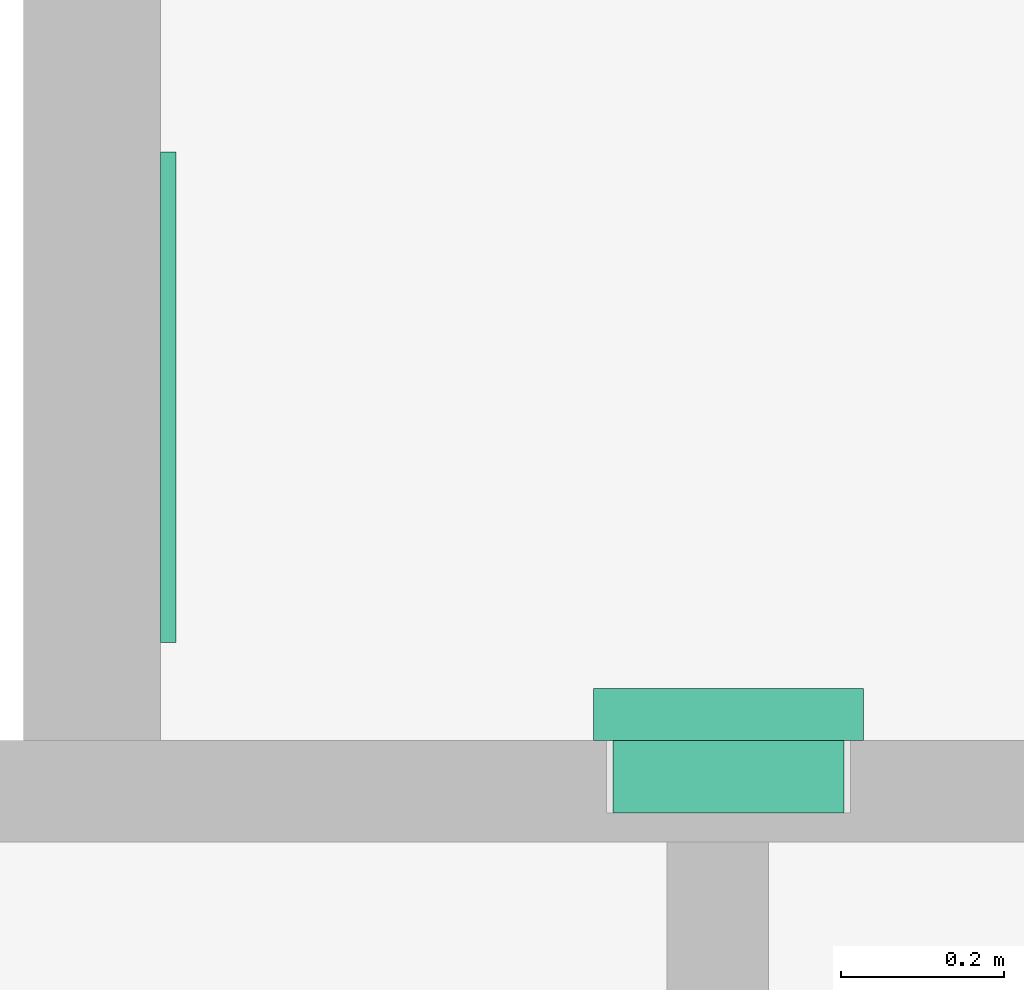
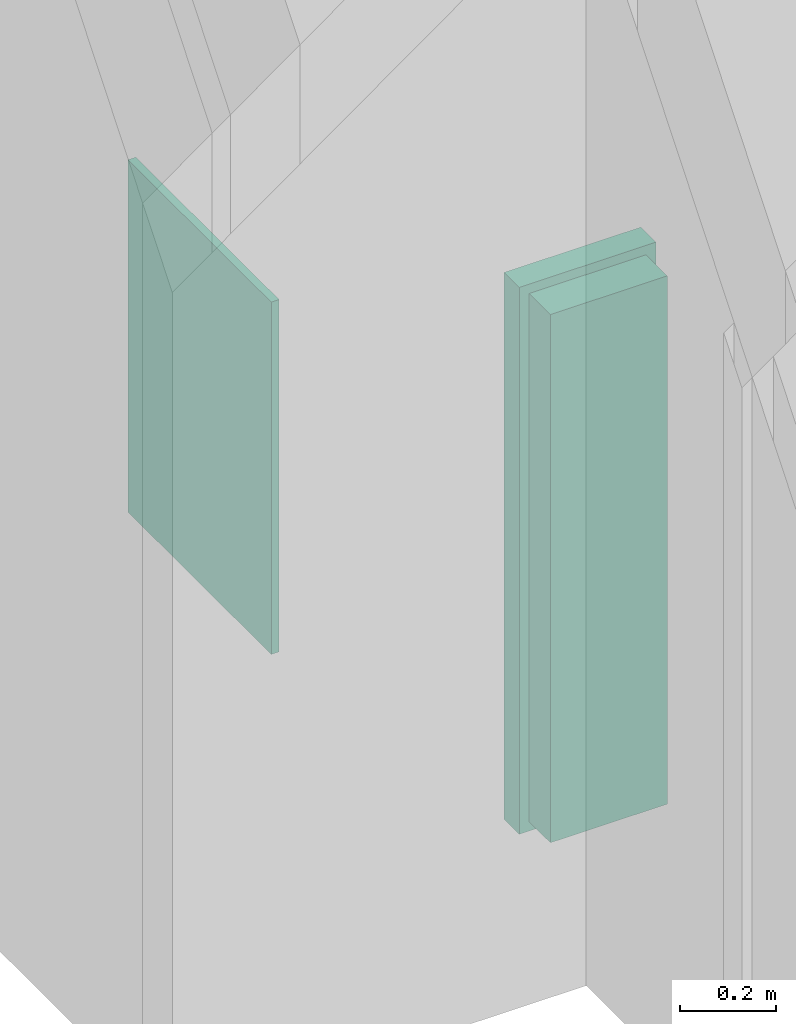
# One storey, part 56 of 82: 2 flow terminals.
"""IFC2X3 building model written with IfcOpenShell, lengths in metres."""

import ifcopenshell
import ifcopenshell.guid

model = None  # the IFC model being written
_history = None  # IfcOwnerHistory: only IFC2X3 demands one
_inside = {}  # id of a spatial element -> (the spatial element, [elements in it])
_under = {}  # id of a project, library or spatial element -> (it, [spatial elements below it])
_declared = {}  # id of a project -> (the project, [libraries it declares])
_typed = {}  # id of a type object -> (the type object, [elements of that type])
_made_of = {}  # id of a material, layer set ... -> (it, [elements and type objects made of it])


def new_model(schema):
    """Start an empty IFC model of exactly this schema.

    Asked for "IFC4X3", IfcOpenShell would pick the latest addendum, in which some entities
    have other attributes; the version numbers below select the first issue.
    IFC2X3 requires an IfcOwnerHistory on every rooted entity: one is made here for all.
    """
    global model, _history
    if schema == "IFC4X3":
        model = ifcopenshell.file(schema_version=(4, 3, 0, 0))
    else:
        model = ifcopenshell.file(schema=schema)
    _inside.clear()
    _under.clear()
    _declared.clear()
    _typed.clear()
    _made_of.clear()
    _history = None
    if model.schema == "IFC2X3":
        org = make("IfcOrganization", Name="unknown")
        user = make(
            "IfcPersonAndOrganization",
            ThePerson=make("IfcPerson", FamilyName="unknown"),
            TheOrganization=org,
        )
        app = make(
            "IfcApplication",
            ApplicationDeveloper=org,
            Version="unknown",
            ApplicationFullName="unknown",
            ApplicationIdentifier="unknown",
        )
        _history = make(
            "IfcOwnerHistory",
            OwningUser=user,
            OwningApplication=app,
            ChangeAction="ADDED",
            CreationDate=0,
        )
    return model


def make(cls, **values):
    """One entity of the class cls with the attributes given. An attribute that is None is left unset."""
    return model.create_entity(
        cls, **{name: value for name, value in values.items() if value is not None}
    )


def entity(cls, *values):
    """Any entity or typed value of the class cls, its attributes in the order of the schema. None: left unset."""
    e = model.create_entity(cls)
    for i, value in enumerate(values):
        if value is not None:
            e[i] = value
    return e


def rooted(cls, **values):
    """An entity with a GlobalId (a new one), such as an element, a storey or a relation."""
    return make(cls, GlobalId=ifcopenshell.guid.new(), OwnerHistory=_history, **values)


def si_unit(unit_type, name, prefix=None):
    """IfcSIUnit, for example si_unit("LENGTHUNIT", "METRE", prefix="MILLI")."""
    return make("IfcSIUnit", UnitType=unit_type, Prefix=prefix, Name=name)


def converted_unit(unit_type, name, factor, base, dimensions=None, offset=None):
    """IfcConversionBasedUnit, such as the inch: factor (a typed value) times the base unit."""
    return make(
        "IfcConversionBasedUnit"
        if offset is None
        else "IfcConversionBasedUnitWithOffset",
        ConversionOffset=offset,
        Dimensions=None
        if dimensions is None
        else entity("IfcDimensionalExponents", *dimensions),
        UnitType=unit_type,
        Name=name,
        ConversionFactor=make(
            "IfcMeasureWithUnit", ValueComponent=factor, UnitComponent=base
        ),
    )


def assignment(units):
    """IfcUnitAssignment: the units of a project."""
    return None if units is None else make("IfcUnitAssignment", Units=units)


def point(xyz):
    """IfcCartesianPoint."""
    return None if xyz is None else make("IfcCartesianPoint", Coordinates=xyz)


def direction(xyz):
    """IfcDirection."""
    return None if xyz is None else make("IfcDirection", DirectionRatios=xyz)


def frame(location, z_axis=None, x_axis=None):
    """IfcAxis2Placement3D, a coordinate frame: its origin and axes. An axis left out is left unset."""
    return make(
        "IfcAxis2Placement3D",
        Location=point(location),
        Axis=direction(z_axis),
        RefDirection=direction(x_axis),
    )


def frame_2d(location, x_axis=None):
    """IfcAxis2Placement2D, a coordinate frame in the plane: its origin and x axis."""
    return make(
        "IfcAxis2Placement2D", Location=point(location), RefDirection=direction(x_axis)
    )


def origin():
    """The frame at (0, 0, 0) with its axes left unset."""
    return frame((0.0, 0.0, 0.0))


def origin_2d_with_axis():
    """The frame at (0, 0) in the plane with the x axis (1, 0) written out."""
    return frame_2d((0.0, 0.0), x_axis=(1.0, 0.0))


def place(relative_to, where):
    """IfcLocalPlacement: puts the frame where relative to a parent placement (None: the world)."""
    return make(
        "IfcLocalPlacement", PlacementRelTo=relative_to, RelativePlacement=where
    )


def context(
    kind, dimensions, precision=None, world=None, true_north=None, identifier=None
):
    """IfcGeometricRepresentationContext, for example the 3D "Model" context."""
    return make(
        "IfcGeometricRepresentationContext",
        ContextIdentifier=identifier,
        ContextType=kind,
        CoordinateSpaceDimension=dimensions,
        Precision=precision,
        WorldCoordinateSystem=world,
        TrueNorth=true_north,
    )


def project(units=None, contexts=None):
    """IfcProject with its units and contexts."""
    return rooted(
        "IfcProject",
        Name="project",
        RepresentationContexts=contexts,
        UnitsInContext=assignment(units),
    )


def spatial(cls, under=None, at=None, **own):
    """A site, building, storey or space (cls), placed at a placement, below another one or the project."""
    s = rooted(cls, ObjectPlacement=at, **own)
    if under is not None:
        _under.setdefault(under.id(), (under, []))[1].append(s)
    return s


def profile(cls, at=None, kind="AREA", **sizes):
    """A parametric profile (cls). Its sizes go by their IFC names, for example OverallWidth=200.0."""
    return make(cls, ProfileType=kind, Position=at, **sizes)


def rectangle(**sizes):
    """IfcRectangleProfileDef."""
    return profile("IfcRectangleProfileDef", **sizes)


def extrude(swept, where, along, depth):
    """IfcExtrudedAreaSolid: the profile swept, set in the frame where, extruded along a direction by depth."""
    return make(
        "IfcExtrudedAreaSolid",
        SweptArea=swept,
        Position=where,
        ExtrudedDirection=direction(along),
        Depth=depth,
    )


def faces_of(points, faces, orient=None, outer=None):
    """IfcFace entities. A face is a list of loops; a loop is a list of indices into points, from 0.

    orient and outer hold one flag for each loop. By default every Orientation is true, the
    first loop of a face is its IfcFaceOuterBound and the others are IfcFaceBound.
    """
    made = []
    for i, loops in enumerate(faces):
        bounds = []
        for j, loop in enumerate(loops):
            is_outer = j == 0 if outer is None else outer[i][j]
            bounds.append(
                make(
                    "IfcFaceOuterBound" if is_outer else "IfcFaceBound",
                    Bound=make("IfcPolyLoop", Polygon=[points[k] for k in loop]),
                    Orientation=True if orient is None else orient[i][j],
                )
            )
        made.append(make("IfcFace", Bounds=bounds))
    return made


def face_set(faces, orient=None, outer=None):
    """The faces of one IfcConnectedFaceSet. surface_model builds it on its shared points."""
    return ("IfcConnectedFaceSet", faces, orient, outer)


def surface_model(cls, points, shells):
    """IfcFaceBasedSurfaceModel or IfcShellBasedSurfaceModel (cls): surfaces that need not close."""
    shared = [point(p) for p in points]
    made = [make(c, CfsFaces=faces_of(shared, fs, o, b)) for c, fs, o, b in shells]
    if cls == "IfcFaceBasedSurfaceModel":
        return make(cls, FbsmFaces=made)
    return make(cls, SbsmBoundary=made)


def shape(context_of_items, identifier, shape_type, items):
    """IfcShapeRepresentation: the items that make up one representation, for example the "Body"."""
    return make(
        "IfcShapeRepresentation",
        ContextOfItems=context_of_items,
        RepresentationIdentifier=identifier,
        RepresentationType=shape_type,
        Items=items,
    )


def source(mapping_origin, context_of_items, identifier, shape_type, items):
    """IfcRepresentationMap: a shape defined once, which mapped items show again and again."""
    return make(
        "IfcRepresentationMap",
        MappingOrigin=mapping_origin,
        MappedRepresentation=shape(context_of_items, identifier, shape_type, items),
    )


def transform(
    local_origin,
    x_axis=None,
    y_axis=None,
    z_axis=None,
    scale=None,
    scale2=None,
    scale3=None,
    uniform=True,
):
    """IfcCartesianTransformationOperator3D, or its non-uniform kind. x_axis, y_axis, z_axis: its Axis1, 2, 3."""
    if uniform:
        return make(
            "IfcCartesianTransformationOperator3D",
            Axis1=direction(x_axis),
            Axis2=direction(y_axis),
            LocalOrigin=point(local_origin),
            Scale=scale,
            Axis3=direction(z_axis),
        )
    return make(
        "IfcCartesianTransformationOperator3DnonUniform",
        Axis1=direction(x_axis),
        Axis2=direction(y_axis),
        LocalOrigin=point(local_origin),
        Scale=scale,
        Axis3=direction(z_axis),
        Scale2=scale2,
        Scale3=scale3,
    )


def mapped(mapping_source, mapping_target):
    """IfcMappedItem: shows the shape of a source again, moved by a transform."""
    return make(
        "IfcMappedItem", MappingSource=mapping_source, MappingTarget=mapping_target
    )


def made_of(thing, what):
    """Note that an element or type object is made of a material, layer set ...; save() writes the relation."""
    if what is not None:
        _made_of.setdefault(what.id(), (what, []))[1].append(thing)
    return thing


def type_object(cls, material=None, **own):
    """A type object (cls), such as IfcWallType, which elements share."""
    return made_of(rooted(cls, **own), material)


def type_shapes(of_type, sources):
    """Give a type object the sources (RepresentationMaps) that its elements show as mapped items."""
    of_type.RepresentationMaps = sources


def element(
    cls,
    number,
    at=None,
    inside=None,
    cuts=None,
    type_object=None,
    material=None,
    context=None,
    identifier="Body",
    shape_type=None,
    held_by="IfcProductDefinitionShape",
    body=None,
    shapes=None,
    **own,
):
    """One element of the class cls, such as IfcWall. Its Tag is "e" and its number.

    at: its placement. inside: the storey or other place that contains it. cuts: it is an
    opening in that element (IfcRelVoidsElement). A single representation is given by context,
    identifier, shape_type and body (its items); several are given by shapes. held_by: the class
    of the entity that holds the representations. save() writes the other relations.
    """
    e = rooted(cls, Tag="e%d" % number, ObjectPlacement=at, **own)
    if body is not None:
        shapes = [shape(context, identifier, shape_type, body)]
    if shapes is not None:
        e.Representation = make(held_by, Representations=shapes)
    if inside is not None:
        _inside.setdefault(inside.id(), (inside, []))[1].append(e)
    if cuts is not None:
        rooted(
            "IfcRelVoidsElement", RelatingBuildingElement=cuts, RelatedOpeningElement=e
        )
    if type_object is not None:
        _typed.setdefault(type_object.id(), (type_object, []))[1].append(e)
    return made_of(e, material)


def aggregate(whole, parts):
    """IfcRelAggregates: a whole, such as a stair, and the parts it consists of."""
    return rooted("IfcRelAggregates", RelatingObject=whole, RelatedObjects=parts)


def save(model, path):
    """Write the relations noted so far, then the file.

    IfcRelAggregates (storeys below a building ...), IfcRelContainedInSpatialStructure (elements
    in a storey), IfcRelDefinesByType, IfcRelAssociatesMaterial and IfcRelDeclares: one each for
    every whole, place, type object, material and project.
    """
    for whole, parts in _under.values():
        aggregate(whole, parts)
    for where, things in _inside.values():
        rooted(
            "IfcRelContainedInSpatialStructure",
            RelatedElements=things,
            RelatingStructure=where,
        )
    for kind, things in _typed.values():
        rooted("IfcRelDefinesByType", RelatedObjects=things, RelatingType=kind)
    for what, things in _made_of.values():
        rooted("IfcRelAssociatesMaterial", RelatedObjects=things, RelatingMaterial=what)
    for by, libraries in _declared.values():
        rooted("IfcRelDeclares", RelatingContext=by, RelatedDefinitions=libraries)
    model.write(path)


model = new_model("IFC2X3")

# Units and contexts
model_context = context("Model", 3, precision=1e-09, world=origin())
plan_context = context("Plan", 3, precision=1e-09, world=origin())
ifc_project = project(units=[si_unit("LENGTHUNIT", "METRE"), si_unit("AREAUNIT", "SQUARE_METRE"), si_unit("VOLUMEUNIT", "CUBIC_METRE"), converted_unit("PLANEANGLEUNIT", "DEGREE", entity("IfcRatioMeasure", 0.01745329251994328), si_unit("PLANEANGLEUNIT", "RADIAN"), dimensions=[0, 0, 0, 0, 0, 0, 0]), si_unit("TIMEUNIT", "SECOND")], contexts=[model_context, plan_context])

# Site, building, storey, space
site_placement = place(None, origin())
site = spatial("IfcSite", under=ifc_project, at=site_placement, Name="Default", CompositionType="ELEMENT")
building_placement = place(site_placement, origin())
building = spatial("IfcBuilding", under=site, at=building_placement, CompositionType="ELEMENT")
storey_placement = place(building_placement, origin())
storey = spatial("IfcBuildingStorey", under=building, at=storey_placement, Name="First Floor", CompositionType="ELEMENT", Elevation=-3.531500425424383e-13)
space_placement = place(storey_placement, origin())
space = spatial("IfcSpace", under=storey, at=space_placement, Name="1B11", CompositionType="ELEMENT", InteriorOrExteriorSpace="INTERNAL")

# Flow terminals
sanitary_terminal_type_1 = type_object("IfcSanitaryTerminalType", Name="Semi-Recessed", PredefinedType="NOTDEFINED")
shared_shape_1 = source(origin(), model_context, "Body", "SurfaceModel", [
    surface_model("IfcFaceBasedSurfaceModel", [(0.3047999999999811, 1.371600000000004, 0.006350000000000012), (0.02539999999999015, 1.371600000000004, 0.006350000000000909), (0.02539999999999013, 0.02540000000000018, 0.006350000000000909), (0.3047999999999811, 0.02540000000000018, 0.006350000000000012), (0.3047999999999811, 1.371600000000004, 0.0), (0.02539999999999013, 1.371600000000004, 0.0), (0.02539999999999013, 0.02540000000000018, 0.0), (0.3047999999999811, 0.02540000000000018, 0.0), (0.3047999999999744, 0.8683625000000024, 0.0314087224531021), (0.304799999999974, 0.8683625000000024, 0.0), (0.304799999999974, 1.371600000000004, 0.0), (0.3047999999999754, 1.371600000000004, 0.1396999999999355), (0.3047999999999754, 0.9274310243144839, 0.139699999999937), (0.3047999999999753, 0.9028355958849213, 0.1191121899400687), (0.304799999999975, 0.8840898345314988, 0.09308548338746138), (0.3047999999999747, 0.8723562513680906, 0.06323391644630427), (0.02539999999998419, 0.8683625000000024, 0.03140872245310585), (0.02539999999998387, 0.8683625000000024, 0.0), (0.02539999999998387, 1.371600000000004, 0.0), (0.02539999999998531, 1.371600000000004, 0.1396999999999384), (0.02539999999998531, 0.9274310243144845, 0.1396999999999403), (0.02539999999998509, 0.9028355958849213, 0.1191121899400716), (0.02539999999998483, 0.8840898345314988, 0.09308548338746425), (0.02539999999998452, 0.8723562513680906, 0.06323391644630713), (0.1650999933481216, 0.8971245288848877, 0.1125374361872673), (0.244423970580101, 0.8850007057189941, 0.0947267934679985), (0.3048000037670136, 0.8934627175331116, 0.1060988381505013), (0.225727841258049, 0.8897196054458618, 0.1024402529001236), (0.1240624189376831, 0.8936511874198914, 0.1080563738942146), (0.1443802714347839, 0.89626145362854, 0.1114614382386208), (0.02539999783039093, 0.8934627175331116, 0.1060988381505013), (0.2975995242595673, 0.8728225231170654, 0.06500939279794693), (0.2961554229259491, 0.8724397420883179, 0.06352298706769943), (0.08576729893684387, 0.8849983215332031, 0.09472260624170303), (0.05923719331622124, 0.8781034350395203, 0.0805450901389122), (0.06810294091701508, 0.8800443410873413, 0.08500713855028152), (0.02539999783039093, 0.8811564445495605, 0.08562259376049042), (0.03954862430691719, 0.8766331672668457, 0.07681932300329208), (0.04958875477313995, 0.8769928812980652, 0.07776296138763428), (0.02539999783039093, 0.8782230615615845, 0.07815969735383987), (0.03264534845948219, 0.875198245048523, 0.07281118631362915), (0.02539999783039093, 0.8767563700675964, 0.0744282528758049), (0.02539999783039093, 0.87602299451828, 0.07256253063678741), (0.2946777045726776, 0.8762261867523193, 0.07572414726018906), (0.3048000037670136, 0.8767563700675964, 0.0744282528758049), (0.3048000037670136, 0.8774896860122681, 0.07629397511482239), (0.2906513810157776, 0.8717893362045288, 0.0609215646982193), (0.3048000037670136, 0.871357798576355, 0.05527761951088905), (0.3048000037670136, 0.8718570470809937, 0.05925576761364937), (0.02539999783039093, 0.874556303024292, 0.06883108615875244), (0.03170676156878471, 0.8735430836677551, 0.0675705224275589), (0.03171554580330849, 0.8739543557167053, 0.06892137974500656), (0.104461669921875, 0.889717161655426, 0.1024366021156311), (0.02539999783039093, 0.8752896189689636, 0.07069680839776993), (0.03172433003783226, 0.8743656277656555, 0.07027223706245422), (0.03218483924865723, 0.8747819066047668, 0.07154171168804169), (0.185808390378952, 0.8962624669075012, 0.1114626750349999), (0.3048000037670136, 0.8703593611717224, 0.04732131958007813), (0.2280749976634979, 0.8709259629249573, 0.05697767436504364), (0.2061262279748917, 0.8936530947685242, 0.1080589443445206), (0.3048000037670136, 0.8752896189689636, 0.07069680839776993), (0.297547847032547, 0.8752022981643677, 0.07282306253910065), (0.2980738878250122, 0.8745774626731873, 0.0708826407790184), (0.2985999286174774, 0.8739525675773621, 0.06894221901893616), (0.3048000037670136, 0.874556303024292, 0.06883108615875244), (0.2709419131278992, 0.8781068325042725, 0.08055329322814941), (0.3048000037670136, 0.8811564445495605, 0.08562259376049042), (0.2620970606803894, 0.8800443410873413, 0.08500713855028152), (0.2805894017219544, 0.8769944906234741, 0.07776710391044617), (0.3048000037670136, 0.8782230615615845, 0.07815969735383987), (0.03435983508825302, 0.8722586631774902, 0.06284872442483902), (0.02539999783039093, 0.872106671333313, 0.06124484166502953), (0.0367727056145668, 0.8719081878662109, 0.06142202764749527), (0.2906513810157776, 0.8766331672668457, 0.07681932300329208), (0.02539999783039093, 0.8718570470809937, 0.05925576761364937), (0.3048000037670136, 0.8738229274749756, 0.06696536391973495), (0.2980997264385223, 0.8733875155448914, 0.06697580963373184), (0.3048000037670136, 0.872106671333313, 0.06124484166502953), (0.2947112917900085, 0.8720570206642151, 0.06203658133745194), (0.02539999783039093, 0.8738229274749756, 0.06696536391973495), (0.3048000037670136, 0.873089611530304, 0.06509964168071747), (0.02539999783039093, 0.8774896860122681, 0.07629397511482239), (0.03438528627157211, 0.8759323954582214, 0.07491400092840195), (0.03677724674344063, 0.8764464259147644, 0.07632055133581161), (0.03261014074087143, 0.8728178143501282, 0.0649920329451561), (0.02539999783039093, 0.8703593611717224, 0.04732131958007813), (0.1650999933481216, 0.8683624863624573, 0.03140872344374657), (0.03954862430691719, 0.8717893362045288, 0.0609215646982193), (0.1021250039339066, 0.8709259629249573, 0.05697767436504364), (0.02539999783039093, 0.871357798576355, 0.05527761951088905), (0.02539999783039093, 0.873089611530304, 0.06509964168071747), (0.2961127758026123, 0.8757142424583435, 0.07427360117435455), (0.3048000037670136, 0.87602299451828, 0.07256253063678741), (0.1650999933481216, 0.8701865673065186, 0.05300865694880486), (0.03954862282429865, 0.9617593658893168, 0.06092156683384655), (0.1650999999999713, 0.9617593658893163, 0.05300865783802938), (0.2906513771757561, 0.9617593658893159, 0.06092156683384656), (0.2927086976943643, 0.9617593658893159, 0.06119241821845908), (0.2946258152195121, 0.9617593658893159, 0.06198651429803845), (0.2962720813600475, 0.9617593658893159, 0.06324973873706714), (0.2975353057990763, 0.9617593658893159, 0.06489600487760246), (0.2983294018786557, 0.9617593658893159, 0.06681312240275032), (0.2986002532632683, 0.9617593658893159, 0.06887044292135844), (0.2983294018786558, 0.9617593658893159, 0.07092776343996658), (0.2975353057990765, 0.9617593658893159, 0.0728448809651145), (0.2962720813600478, 0.9617593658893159, 0.07449114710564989), (0.2946258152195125, 0.9617593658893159, 0.07575437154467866), (0.2927086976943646, 0.9617593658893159, 0.07654846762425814), (0.2906513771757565, 0.9617593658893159, 0.07681931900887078), (0.2806776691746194, 0.9617593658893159, 0.07775040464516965), (0.2710486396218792, 0.9617593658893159, 0.0805114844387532), (0.2620970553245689, 0.9617593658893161, 0.0850071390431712), (0.2316919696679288, 0.9617593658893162, 0.1002429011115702), (0.1989754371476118, 0.9617593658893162, 0.1095287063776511), (0.1651000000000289, 0.9617593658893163, 0.1125374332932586), (0.1312245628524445, 0.9617593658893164, 0.109528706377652), (0.09850803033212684, 0.9617593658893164, 0.1002429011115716), (0.06810294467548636, 0.9617593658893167, 0.08500713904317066), (0.05915136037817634, 0.9617593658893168, 0.08051148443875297), (0.04952233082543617, 0.9617593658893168, 0.07775040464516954), (0.03954862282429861, 0.9617593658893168, 0.07681931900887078), (0.03749130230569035, 0.9617593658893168, 0.0765484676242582), (0.03557418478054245, 0.9617593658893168, 0.07575437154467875), (0.03392791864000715, 0.9617593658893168, 0.07449114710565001), (0.03266469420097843, 0.9617593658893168, 0.07284488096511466), (0.03187059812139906, 0.9617593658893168, 0.07092776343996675), (0.03159974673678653, 0.9617593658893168, 0.06887044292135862), (0.03187059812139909, 0.9617593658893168, 0.06681312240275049), (0.03266469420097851, 0.9617593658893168, 0.0648960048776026), (0.03392791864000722, 0.9617593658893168, 0.06324973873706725), (0.03557418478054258, 0.9617593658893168, 0.06198651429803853), (0.03749130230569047, 0.9617593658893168, 0.06119241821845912), (0.3302000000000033, 1.397000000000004, 0.1523999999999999), (0.0, 1.397000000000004, 0.152400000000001), (0.0, 0.0, 0.152400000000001), (0.3302000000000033, 0.0, 0.1523999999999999), (0.03175000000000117, 0.7016793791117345, 0.1524000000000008), (0.03175000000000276, 0.8960819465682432, 0.1524000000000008), (0.03192255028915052, 0.8975521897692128, 0.1524000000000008), (0.03243082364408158, 0.8989425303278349, 0.1524000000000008), (0.03324719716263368, 0.9001774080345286, 0.1524000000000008), (0.03432730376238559, 0.9011897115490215, 0.1524000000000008), (0.03561244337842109, 0.9019244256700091, 0.1524000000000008), (0.03703277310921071, 0.9023416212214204, 0.1524000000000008), (0.1222300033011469, 0.9119737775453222, 0.1524000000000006), (0.2079699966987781, 0.911973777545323, 0.1524000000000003), (0.2931672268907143, 0.902341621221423, 0.1524), (0.2945875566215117, 0.9019244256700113, 0.1524), (0.2958726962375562, 0.9011897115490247, 0.1524), (0.2969528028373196, 0.9001774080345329, 0.1524), (0.297769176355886, 0.8989425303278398, 0.1524), (0.2982774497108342, 0.8975521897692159, 0.1524), (0.2984500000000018, 0.8960819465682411, 0.1524), (0.2984500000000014, 0.7016793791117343, 0.1524), (0.2982774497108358, 0.7002091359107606, 0.1524), (0.2977691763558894, 0.6988187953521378, 0.1524), (0.2969528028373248, 0.697583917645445, 0.1524), (0.2958726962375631, 0.6965716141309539, 0.1524), (0.29458755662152, 0.6958369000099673, 0.1524), (0.2931672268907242, 0.6954197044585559, 0.1524), (0.2079699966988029, 0.6857875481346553, 0.1524000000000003), (0.1222300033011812, 0.6857875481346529, 0.1524000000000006), (0.03703277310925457, 0.6954197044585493, 0.1524000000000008), (0.03561244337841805, 0.6958369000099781, 0.1524000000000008), (0.0343273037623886, 0.6965716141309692, 0.1524000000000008), (0.03324719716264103, 0.6975839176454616, 0.1524000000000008), (0.03243082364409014, 0.698818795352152, 0.1524000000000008), (0.03192255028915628, 0.7002091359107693, 0.1524000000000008), (0.3063874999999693, 1.373187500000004, 0.0), (0.02381249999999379, 1.373187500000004, 0.0), (0.02381249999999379, 0.02381250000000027, 0.0), (0.3063874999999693, 0.02381250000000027, 0.0), (0.3047999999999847, 1.371600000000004, 0.0), (0.3047999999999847, 0.02540000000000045, 0.0), (0.02539999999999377, 0.02540000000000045, 0.0), (0.02539999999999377, 1.371600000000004, 0.0), (0.304799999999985, 1.371600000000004, 0.08889999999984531), (0.3047999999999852, 1.371600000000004, 0.1396999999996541), (0.3047999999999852, 0.02540000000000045, 0.1396999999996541), (0.304799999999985, 0.02540000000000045, 0.08889999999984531), (0.02539999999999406, 0.02540000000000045, 0.08889999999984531), (0.02539999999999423, 0.02540000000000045, 0.139699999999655), (0.02539999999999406, 1.371600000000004, 0.08889999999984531), (0.02539999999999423, 1.371600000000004, 0.139699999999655), (0.02381249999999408, 1.373187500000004, 0.08889999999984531), (0.3063874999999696, 1.373187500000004, 0.08889999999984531), (0.02381249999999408, 0.02381250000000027, 0.08889999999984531), (0.3063874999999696, 0.02381250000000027, 0.08889999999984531), (0.3302000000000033, 1.397000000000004, 0.08889999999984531), (0.0, 1.397000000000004, 0.08889999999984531), (0.0, 0.0, 0.08889999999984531), (0.3302000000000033, 0.0, 0.08889999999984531), (0.3302000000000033, 1.397000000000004, 0.1396999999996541), (0.0, 1.397000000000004, 0.1396999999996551), (0.0, 0.0, 0.1396999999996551), (0.3302000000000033, 0.0, 0.1396999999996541), (0.0317500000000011, 0.7016793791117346, 0.139699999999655), (0.03175000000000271, 0.8960819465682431, 0.139699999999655), (0.03192255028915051, 0.8975521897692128, 0.139699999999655), (0.03243082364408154, 0.8989425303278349, 0.139699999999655), (0.03324719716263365, 0.9001774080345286, 0.139699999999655), (0.03432730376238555, 0.9011897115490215, 0.139699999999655), (0.03561244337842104, 0.9019244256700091, 0.139699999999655), (0.03703277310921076, 0.9023416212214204, 0.139699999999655), (0.1222300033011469, 0.9119737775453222, 0.1396999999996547), (0.207969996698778, 0.911973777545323, 0.1396999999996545), (0.2931672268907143, 0.902341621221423, 0.1396999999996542), (0.2945875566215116, 0.9019244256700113, 0.1396999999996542), (0.2958726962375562, 0.9011897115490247, 0.1396999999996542), (0.2969528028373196, 0.9001774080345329, 0.1396999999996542), (0.2977691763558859, 0.8989425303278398, 0.1396999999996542), (0.2982774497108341, 0.8975521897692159, 0.1396999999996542), (0.2984500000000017, 0.8960819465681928, 0.1396999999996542), (0.2984500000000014, 0.7016793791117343, 0.1396999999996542), (0.2982774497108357, 0.7002091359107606, 0.1396999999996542), (0.2977691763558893, 0.6988187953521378, 0.1396999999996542), (0.2969528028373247, 0.697583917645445, 0.1396999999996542), (0.295872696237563, 0.6965716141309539, 0.1396999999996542), (0.29458755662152, 0.6958369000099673, 0.1396999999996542), (0.2931672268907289, 0.6954197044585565, 0.1396999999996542), (0.2079699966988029, 0.6857875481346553, 0.1396999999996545), (0.1222300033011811, 0.6857875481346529, 0.1396999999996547), (0.0370327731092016, 0.6954197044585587, 0.139699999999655), (0.03561244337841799, 0.6958369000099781, 0.139699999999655), (0.03432730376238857, 0.6965716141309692, 0.139699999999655), (0.03324719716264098, 0.6975839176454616, 0.139699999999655), (0.03243082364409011, 0.698818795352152, 0.139699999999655), (0.03192255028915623, 0.7002091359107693, 0.139699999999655), (0.02698749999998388, 0.6774923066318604, 0.1206361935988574), (0.02698749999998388, 0.6858000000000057, 0.1206361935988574), (0.02698749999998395, 0.6858000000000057, 0.1397000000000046), (0.02698749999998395, 0.0253999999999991, 0.1397000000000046), (0.02698749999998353, 0.0253999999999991, 0.007937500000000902), (0.02698749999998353, 0.7076898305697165, 0.007937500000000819), (0.3032124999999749, 0.6774923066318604, 0.1206361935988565), (0.3032124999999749, 0.6858000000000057, 0.1206361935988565), (0.3032124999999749, 0.6858000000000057, 0.1397000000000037), (0.3032124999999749, 0.0253999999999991, 0.1397000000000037), (0.3032124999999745, 0.0253999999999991, 0.007937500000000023), (0.3032124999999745, 0.7076898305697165, 0.007937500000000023)], [face_set([[[0, 1, 2, 3]], [[4, 5, 6, 7]], [[1, 0, 4, 5]], [[2, 6, 5, 1]], [[3, 7, 6, 2]], [[0, 3, 7, 4]]]), face_set([[[8, 9, 10, 11, 12, 13, 14, 15]], [[16, 17, 18, 19, 20, 21, 22, 23]], [[9, 8, 16, 17]], [[10, 18, 17, 9]], [[11, 19, 18, 10]], [[12, 11, 19, 20]], [[24, 20, 21]], [[25, 26, 27]], [[28, 29, 21]], [[28, 21, 30]], [[15, 31, 32]], [[22, 33, 30]], [[24, 21, 29]], [[34, 35, 36]], [[37, 38, 39]], [[40, 41, 42]], [[39, 38, 34]], [[22, 35, 33]], [[39, 34, 36]], [[43, 44, 45]], [[46, 47, 48]], [[49, 50, 51]], [[33, 52, 30]], [[53, 54, 55]], [[24, 56, 13]], [[57, 47, 58]], [[24, 13, 12]], [[13, 56, 59]], [[59, 27, 26]], [[60, 61, 62]], [[62, 63, 64]], [[24, 12, 20]], [[55, 42, 53]], [[65, 66, 67]], [[25, 67, 14]], [[25, 14, 26]], [[65, 68, 69]], [[66, 65, 69]], [[70, 71, 72]], [[69, 68, 73]], [[72, 71, 74]], [[26, 13, 59]], [[54, 53, 49]], [[64, 60, 62]], [[75, 63, 76]], [[46, 77, 78]], [[79, 50, 49]], [[80, 76, 31]], [[39, 81, 37]], [[41, 82, 81]], [[49, 51, 54]], [[81, 82, 83]], [[40, 82, 41]], [[70, 84, 23]], [[84, 50, 79]], [[85, 16, 86]], [[28, 30, 52]], [[70, 23, 71]], [[87, 72, 74]], [[85, 88, 89]], [[87, 89, 88]], [[74, 89, 87]], [[84, 90, 23]], [[58, 47, 46]], [[35, 22, 36]], [[63, 75, 64]], [[91, 61, 92]], [[45, 73, 43]], [[80, 75, 76]], [[61, 60, 92]], [[15, 32, 78]], [[45, 69, 73]], [[92, 44, 91]], [[66, 14, 67]], [[84, 79, 90]], [[85, 93, 88]], [[86, 57, 93]], [[31, 15, 80]], [[77, 15, 78]], [[42, 55, 40]], [[58, 93, 57]], [[77, 46, 48]], [[8, 57, 86]], [[37, 81, 83]], [[44, 43, 91]], [[85, 86, 93]], [[94, 95, 96, 97, 98, 99, 100, 101, 102, 103, 104, 105, 106, 107, 108, 109, 110, 111, 112, 113, 114, 115, 116, 117, 118, 119, 120, 121, 122, 123, 124, 125, 126, 127, 128, 129, 130, 131]], [[95, 94, 87, 88, 93]], [[96, 95, 93, 58, 46]], [[46, 96, 97]], [[78, 98, 99]], [[97, 98, 78]], [[99, 100, 31]], [[46, 97, 78]], [[63, 31, 101]], [[31, 78, 99]], [[63, 101, 102]], [[101, 31, 100]], [[61, 104, 105]], [[43, 106, 107]], [[105, 106, 43]], [[73, 107, 108]], [[63, 103, 61]], [[103, 63, 102]], [[61, 103, 104]], [[61, 105, 43]], [[107, 73, 43]], [[108, 68, 73]], [[68, 108, 109]], [[109, 65, 68]], [[110, 67, 65]], [[67, 110, 111]], [[109, 110, 65]], [[111, 112, 25]], [[25, 67, 111]], [[27, 25, 112]], [[112, 59, 27]], [[113, 114, 56]], [[56, 59, 113]], [[24, 56, 114]], [[113, 59, 112]], [[114, 115, 29]], [[29, 24, 114]], [[28, 29, 115]], [[115, 116, 28]], [[116, 117, 33]], [[33, 52, 116]], [[35, 33, 117]], [[116, 52, 28]], [[118, 34, 35]], [[35, 117, 118]], [[118, 119, 34]], [[120, 37, 38]], [[38, 119, 120]], [[34, 119, 38]], [[37, 120, 121]], [[82, 122, 123]], [[121, 122, 83]], [[123, 124, 40]], [[37, 121, 83]], [[83, 122, 82]], [[40, 125, 54]], [[40, 82, 123]], [[54, 125, 126]], [[40, 124, 125]], [[84, 127, 128]], [[129, 84, 128]], [[72, 130, 131]], [[129, 130, 70]], [[87, 131, 94]], [[127, 50, 126]], [[127, 84, 50]], [[126, 50, 54]], [[70, 84, 129]], [[130, 72, 70]], [[131, 87, 72]]]), face_set([[[132, 133, 134, 135], [136, 137, 138, 139, 140, 141, 142, 143, 144, 145, 146, 147, 148, 149, 150, 151, 152, 153, 154, 155, 156, 157, 158, 159, 160, 161, 162, 163, 164, 165, 166, 167]], [[168, 169, 170, 171], [172, 173, 174, 175]], [[172, 176, 177, 178, 179, 173]], [[173, 174, 180, 181, 178, 179]], [[174, 175, 182, 183, 181, 180]], [[175, 182, 183, 177, 176, 172]], [[168, 169, 184, 185]], [[169, 184, 186, 170]], [[170, 186, 187, 171]], [[171, 168, 185, 187]], [[188, 189, 190, 191], [185, 187, 186, 184]], [[133, 132, 192, 188, 189, 193]], [[134, 133, 193, 189, 190, 194]], [[135, 134, 194, 190, 191, 195]], [[132, 135, 195, 191, 188, 192]], [[177, 183, 181, 178], [196, 197, 198, 199, 200, 201, 202, 203, 204, 205, 206, 207, 208, 209, 210, 211, 212, 213, 214, 215, 216, 217, 218, 219, 220, 221, 222, 223, 224, 225, 226, 227]], [[137, 136, 196, 197]], [[198, 197, 137, 138]], [[199, 198, 138, 139]], [[139, 140, 200, 199]], [[202, 201, 141, 142]], [[203, 202, 142, 143]], [[140, 141, 201, 200]], [[203, 143, 144, 204]], [[145, 205, 204, 144]], [[205, 145, 146, 206]], [[207, 206, 146, 147]], [[208, 207, 147, 148]], [[148, 149, 209, 208]], [[212, 211, 151, 152]], [[211, 210, 150, 151]], [[149, 150, 210, 209]], [[153, 213, 212, 152]], [[214, 213, 153, 154]], [[215, 214, 154, 155]], [[155, 156, 216, 215]], [[218, 217, 157, 158]], [[219, 218, 158, 159]], [[156, 157, 217, 216]], [[219, 159, 160, 220]], [[161, 221, 220, 160]], [[221, 161, 162, 222]], [[223, 222, 162, 163]], [[224, 223, 163, 164]], [[164, 165, 225, 224]], [[227, 226, 166, 167]], [[196, 227, 167, 136]], [[165, 166, 226, 225]]]), face_set([[[228, 229, 230, 231, 232, 233]], [[234, 235, 236, 237, 238, 239]], [[233, 228, 234, 239]], [[232, 238, 239, 233]], [[231, 237, 238, 232]], [[230, 231, 237, 236]], [[229, 230, 236, 235]], [[228, 234, 235, 229]]])]),
])
type_shapes(sanitary_terminal_type_1, [shared_shape_1])
flow_terminal_1_placement = place(space_placement, frame((-6.339800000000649, 15.87509999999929, 0.3428999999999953), z_axis=(0.0, 1.0, 0.0), x_axis=(-1.0, 0.0, 0.0)))
element("IfcFlowTerminal", 1, at=flow_terminal_1_placement, inside=space, type_object=sanitary_terminal_type_1, Name="M_Towel Dispensers - receptical:Semi-Recessed:Semi-Recessed", ObjectType="Semi-Recessed", context=model_context, shape_type="MappedRepresentation", body=[
    mapped(shared_shape_1, transform((0.0, 0.0, 0.0), scale=1.0)),
])
sanitary_terminal_type_2 = type_object("IfcSanitaryTerminalType", Name="Mirror 600mm x 900mm", PredefinedType="NOTDEFINED")
shared_shape_2 = source(origin(), model_context, "Body", "SweptSolid", [
    extrude(rectangle(XDim=0.01905, YDim=0.5999999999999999, at=origin_2d_with_axis()), frame((0.02447030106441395, 0.093525, 1.0), z_axis=(0.0, 0.0, 1.0), x_axis=(0.0, -1.0, 0.0)), (0.0, 0.0, 1.0), 0.8999999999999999),
])
type_shapes(sanitary_terminal_type_2, [shared_shape_2])
flow_terminal_2_placement = place(space_placement, frame((-7.283975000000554, 16.40847030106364, -0.08500000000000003), z_axis=(0.0, 0.0, 1.0), x_axis=(0.0, -1.0, 0.0)))
element("IfcFlowTerminal", 2, at=flow_terminal_2_placement, inside=space, type_object=sanitary_terminal_type_2, Name="M_Mirror:Mirror 600mm x 900mm:Mirror 600mm x 900mm", ObjectType="Mirror 600mm x 900mm", context=model_context, shape_type="MappedRepresentation", body=[
    mapped(shared_shape_2, transform((0.0, 0.0, 0.0), scale=1.0)),
])

save(model, "model.ifc")
